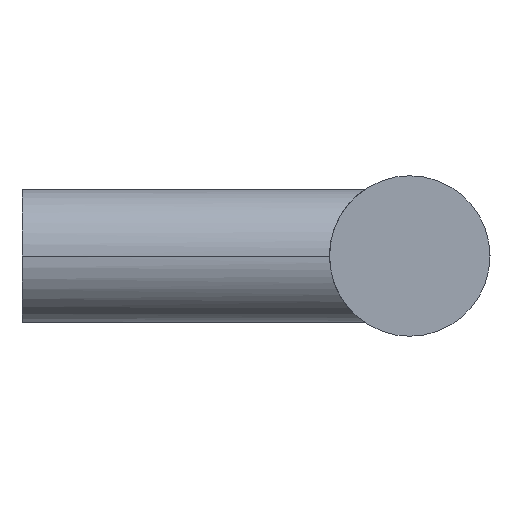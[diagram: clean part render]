
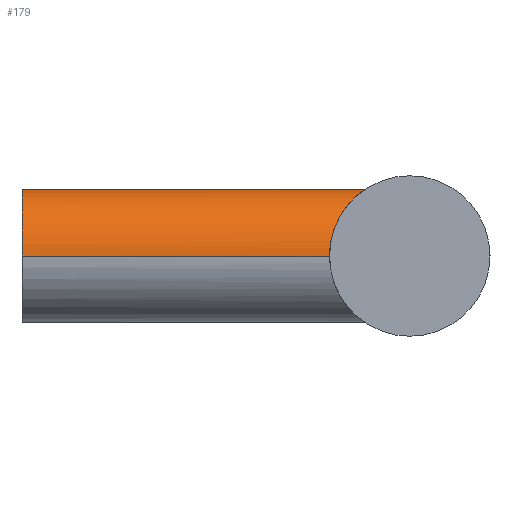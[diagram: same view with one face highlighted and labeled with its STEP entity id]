
A CAD part, left-side view. The second image highlights one B-rep face of the part: STEP entity #179.
In plain terms, the highlighted cylindrical face has radius 5 mm (diameter 10 mm), a partial arc.
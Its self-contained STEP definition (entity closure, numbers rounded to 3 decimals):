
#95 = VERTEX_POINT( '', #253 );
#113 = EDGE_CURVE( '', #95, #207, #275, .T. );
#117 = EDGE_CURVE( '', #163, #95, #280, .T. );
#141 = EDGE_CURVE( '', #229, #145, #307, .T. );
#145 = VERTEX_POINT( '', #311 );
#163 = VERTEX_POINT( '', #332 );
#179 = ADVANCED_FACE( '', ( #348 ), #349, .T. );
#207 = VERTEX_POINT( '', #383 );
#229 = VERTEX_POINT( '', #407 );
#231 = EDGE_CURVE( '', #145, #163, #409, .T. );
#235 = EDGE_CURVE( '', #207, #229, #413, .T. );
#253 = CARTESIAN_POINT( '', ( 0., -25.683, 5. ) );
#275 = B_SPLINE_CURVE_WITH_KNOTS( '', 3, ( #449, #450, #451, #452, #453, #454, #455, #456, #457, #458, #459, #460, #461, #462, #463, #464, #465, #466 ), .UNSPECIFIED., .F., .F., ( 4, 2, 2, 2, 2, 2, 2, 2, 4 ), ( 0., 1.041, 2.083, 3.124, 4.165, 5.164, 6.163, 7.162, 8.161 ), .UNSPECIFIED. );
#280 = B_SPLINE_CURVE_WITH_KNOTS( '', 3, ( #472, #473, #474, #475, #476, #477, #478, #479, #480, #481, #482, #483, #484, #485, #486, #487, #488, #489 ), .UNSPECIFIED., .F., .F., ( 4, 2, 2, 2, 2, 2, 2, 2, 4 ), ( 24.483, 25.482, 26.481, 27.479, 28.478, 29.52, 30.561, 31.602, 32.643 ), .UNSPECIFIED. );
#307 = CIRCLE( '', #573, 5. );
#311 = CARTESIAN_POINT( '', ( 5., 0., 0. ) );
#332 = CARTESIAN_POINT( '', ( 5., -23., 0. ) );
#348 = FACE_OUTER_BOUND( '', #674, .T. );
#349 = CYLINDRICAL_SURFACE( '', #675, 5. );
#383 = CARTESIAN_POINT( '', ( -5., -23., 0. ) );
#407 = CARTESIAN_POINT( '', ( -5., 0., 0. ) );
#409 = LINE( '', #749, #750 );
#413 = LINE( '', #755, #756 );
#449 = CARTESIAN_POINT( '', ( 0., -25.683, 5. ) );
#450 = CARTESIAN_POINT( '', ( -0.347, -25.683, 5. ) );
#451 = CARTESIAN_POINT( '', ( -0.687, -25.627, 4.964 ) );
#452 = CARTESIAN_POINT( '', ( -1.343, -25.436, 4.828 ) );
#453 = CARTESIAN_POINT( '', ( -1.659, -25.301, 4.728 ) );
#454 = CARTESIAN_POINT( '', ( -2.259, -24.995, 4.472 ) );
#455 = CARTESIAN_POINT( '', ( -2.544, -24.825, 4.316 ) );
#456 = CARTESIAN_POINT( '', ( -3.073, -24.483, 3.957 ) );
#457 = CARTESIAN_POINT( '', ( -3.317, -24.311, 3.754 ) );
#458 = CARTESIAN_POINT( '', ( -3.745, -24., 3.326 ) );
#459 = CARTESIAN_POINT( '', ( -3.946, -23.847, 3.088 ) );
#460 = CARTESIAN_POINT( '', ( -4.306, -23.566, 2.561 ) );
#461 = CARTESIAN_POINT( '', ( -4.467, -23.437, 2.272 ) );
#462 = CARTESIAN_POINT( '', ( -4.728, -23.225, 1.659 ) );
#463 = CARTESIAN_POINT( '', ( -4.83, -23.141, 1.335 ) );
#464 = CARTESIAN_POINT( '', ( -4.966, -23.028, 0.672 ) );
#465 = CARTESIAN_POINT( '', ( -5., -23., 0.333 ) );
#466 = CARTESIAN_POINT( '', ( -5., -23., 0. ) );
#472 = CARTESIAN_POINT( '', ( 5., -23., 0. ) );
#473 = CARTESIAN_POINT( '', ( 5., -23., 0.333 ) );
#474 = CARTESIAN_POINT( '', ( 4.966, -23.028, 0.672 ) );
#475 = CARTESIAN_POINT( '', ( 4.83, -23.141, 1.335 ) );
#476 = CARTESIAN_POINT( '', ( 4.728, -23.225, 1.659 ) );
#477 = CARTESIAN_POINT( '', ( 4.467, -23.437, 2.272 ) );
#478 = CARTESIAN_POINT( '', ( 4.306, -23.566, 2.561 ) );
#479 = CARTESIAN_POINT( '', ( 3.946, -23.847, 3.088 ) );
#480 = CARTESIAN_POINT( '', ( 3.745, -24., 3.326 ) );
#481 = CARTESIAN_POINT( '', ( 3.317, -24.311, 3.754 ) );
#482 = CARTESIAN_POINT( '', ( 3.073, -24.483, 3.957 ) );
#483 = CARTESIAN_POINT( '', ( 2.544, -24.825, 4.316 ) );
#484 = CARTESIAN_POINT( '', ( 2.259, -24.995, 4.472 ) );
#485 = CARTESIAN_POINT( '', ( 1.659, -25.301, 4.728 ) );
#486 = CARTESIAN_POINT( '', ( 1.343, -25.436, 4.828 ) );
#487 = CARTESIAN_POINT( '', ( 0.687, -25.627, 4.964 ) );
#488 = CARTESIAN_POINT( '', ( 0.347, -25.683, 5. ) );
#489 = CARTESIAN_POINT( '', ( 0., -25.683, 5. ) );
#573 = AXIS2_PLACEMENT_3D( '', #824, #825, #826 );
#674 = EDGE_LOOP( '', ( #861, #862, #863, #864, #865 ) );
#675 = AXIS2_PLACEMENT_3D( '', #866, #867, #868 );
#749 = CARTESIAN_POINT( '', ( 5., 0., 0. ) );
#750 = VECTOR( '', #943, 1. );
#755 = CARTESIAN_POINT( '', ( -5., 0., 0. ) );
#756 = VECTOR( '', #944, 1. );
#824 = CARTESIAN_POINT( '', ( 0., 0., 0. ) );
#825 = DIRECTION( '', ( 0., 1., 0. ) );
#826 = DIRECTION( '', ( 1., 0., 0. ) );
#861 = ORIENTED_EDGE( '', *, *, #231, .F. );
#862 = ORIENTED_EDGE( '', *, *, #141, .F. );
#863 = ORIENTED_EDGE( '', *, *, #235, .F. );
#864 = ORIENTED_EDGE( '', *, *, #113, .F. );
#865 = ORIENTED_EDGE( '', *, *, #117, .F. );
#866 = CARTESIAN_POINT( '', ( 0., 0., 0. ) );
#867 = DIRECTION( '', ( 0., 1., 0. ) );
#868 = DIRECTION( '', ( 1., 0., 0. ) );
#943 = DIRECTION( '', ( 0., -1., 0. ) );
#944 = DIRECTION( '', ( 0., 1., 0. ) );
